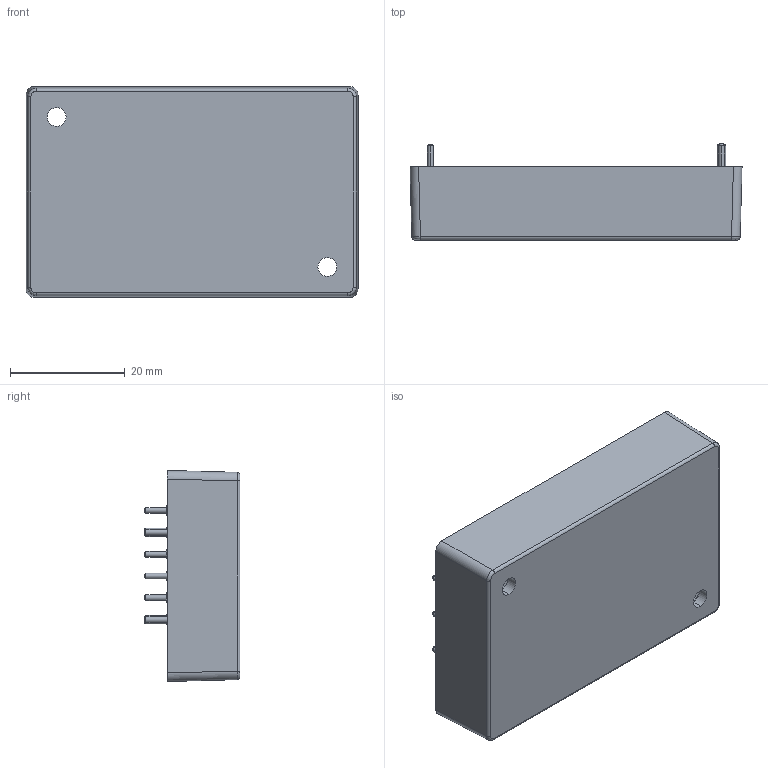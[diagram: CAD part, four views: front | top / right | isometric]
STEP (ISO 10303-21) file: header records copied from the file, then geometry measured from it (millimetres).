
FILE_DESCRIPTION (( 'STEP AP214' ), '1' );
FILE_NAME ('QAM60T-D.STEP', '2026-03-09T09:42:56', ( '' ), ( '' ), 'SwSTEP 2.0', 'SolidWorks 2024', '' );
FILE_SCHEMA (( 'AUTOMOTIVE_DESIGN' ));
Length unit declared in the file: millimetre
Products named in the file (1): QAM60T-D
Bounding box: 57.9 x 16.7 x 36.8 mm (x, y, z)
Volume: 26040.4 mm3; surface area: 7256.8 mm2
Topology: 1 solids, 1 shells, 291 faces, 695 edges, 448 vertices
Faces by surface type: plane 96, bspline 85, cylinder 68, cone 26, torus 16
Entity records: 13100 total; most frequent: CARTESIAN_POINT 6760, ORIENTED_EDGE 1390, DIRECTION 1117, EDGE_CURVE 695, VERTEX_POINT 448, AXIS2_PLACEMENT_3D 393, EDGE_LOOP 337, LINE 331
